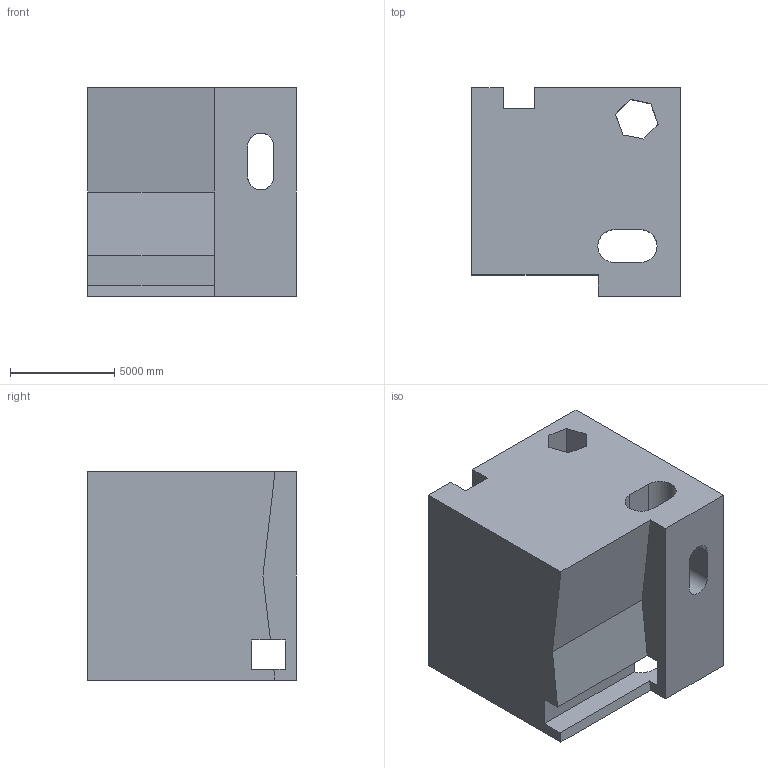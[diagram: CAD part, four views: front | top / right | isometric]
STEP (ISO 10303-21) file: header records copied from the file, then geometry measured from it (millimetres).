
FILE_DESCRIPTION (( 'STEP AP203' ), '1' );
FILE_NAME ('784.STEP', '2022-07-29T13:11:20', ( 'user' ), ( '' ), 'SwSTEP 2.0', 'SolidWorks 2021', '' );
FILE_SCHEMA (( 'CONFIG_CONTROL_DESIGN' ));
Length unit declared in the file: centimetre
Products named in the file (1): 784
Bounding box: 10000 x 10000 x 10000 mm (x, y, z)
Volume: 782946852707.7 mm3; surface area: 827440636 mm2
Topology: 1 solids, 1 shells, 57 faces, 183 edges, 122 vertices
Faces by surface type: plane 41, cylinder 16
Entity records: 2457 total; most frequent: CARTESIAN_POINT 775, ORIENTED_EDGE 366, DIRECTION 304, EDGE_CURVE 183, VECTOR 132, LINE 132, VERTEX_POINT 122, AXIS2_PLACEMENT_3D 86
